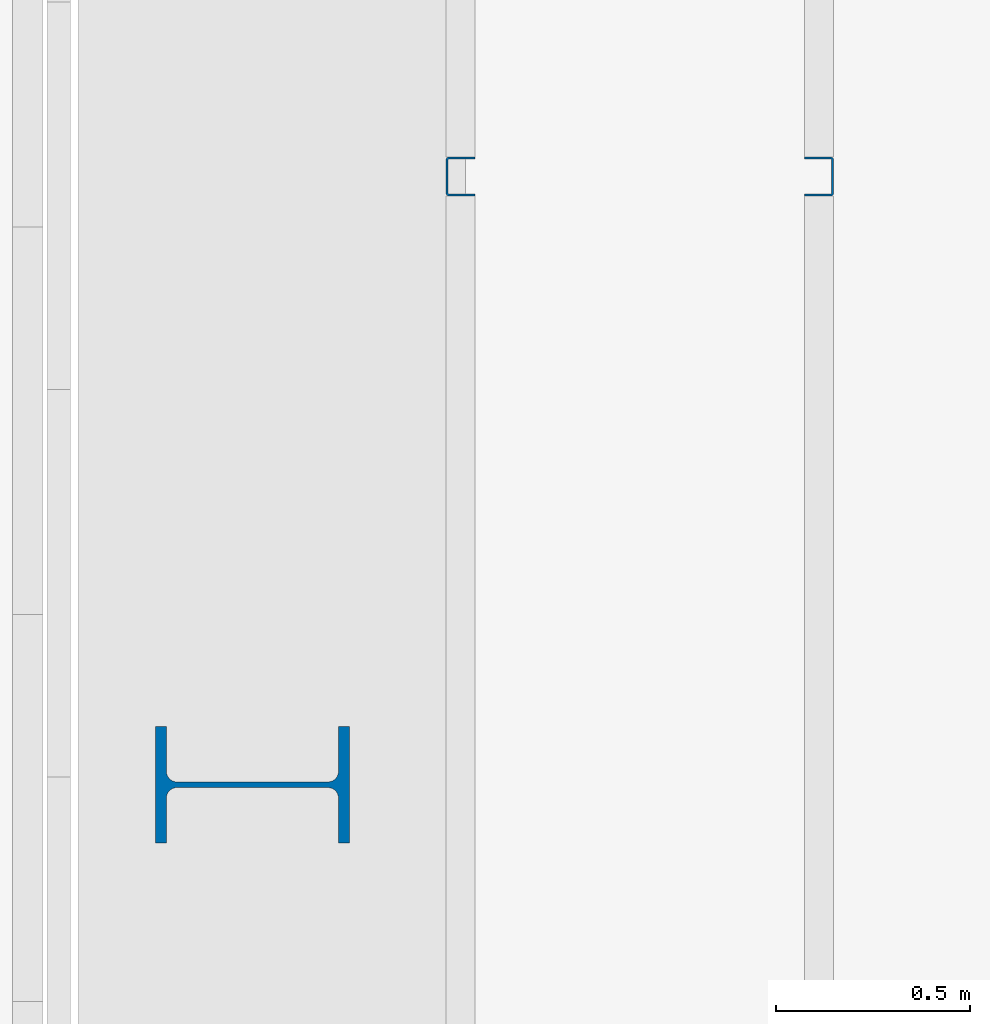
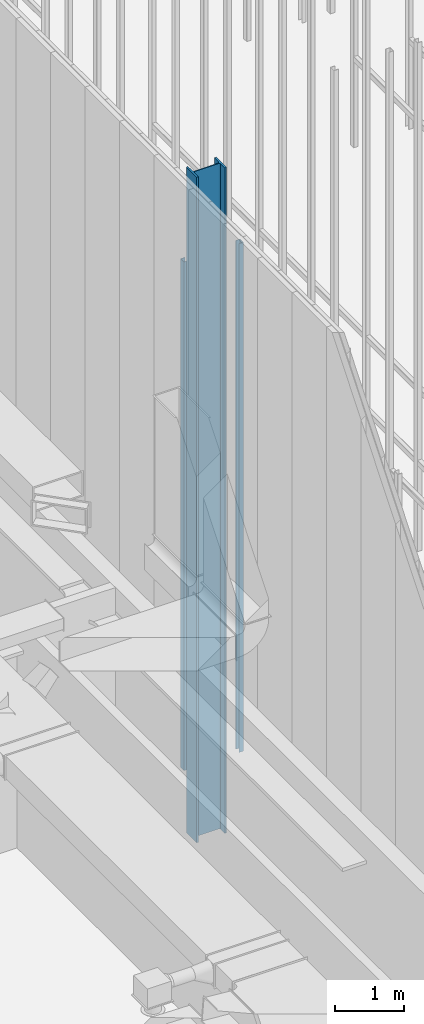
# One storey, part 16 of 302: 3 columns.
"""IFC2X3 building model written with IfcOpenShell, lengths in metres."""

from ifc_helpers import new_model, entity, si_unit, converted_unit, derived_unit, direction, frame, frame_2d, origin, place, context, subcontext, project, spatial, polyline, circle_curve, parameter, trimmed, segment, composite_curve, outline, extrude, source, transform, mapped, material, type_object, type_shapes, element, save


model = new_model("IFC2X3")

# Units and contexts
model_context = context("Model", 3, precision=1e-05, world=origin(), true_north=direction((6.12303176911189e-17, 1.0)))
body_context = subcontext(model_context, "Body", "Model", "MODEL_VIEW")
ifc_project = project(units=[si_unit("LENGTHUNIT", "METRE"), si_unit("AREAUNIT", "SQUARE_METRE"), si_unit("VOLUMEUNIT", "CUBIC_METRE"), converted_unit("PLANEANGLEUNIT", "DEGREE", entity("IfcRatioMeasure", 0.0174532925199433), si_unit("PLANEANGLEUNIT", "RADIAN"), dimensions=[0, 0, 0, 0, 0, 0, 0]), si_unit("MASSUNIT", "GRAM", prefix="KILO"), derived_unit("MASSDENSITYUNIT", [(si_unit("MASSUNIT", "GRAM", prefix="KILO"), 1), (si_unit("LENGTHUNIT", "METRE"), -3)]), derived_unit("MOMENTOFINERTIAUNIT", [(si_unit("LENGTHUNIT", "METRE"), 4)]), si_unit("TIMEUNIT", "SECOND"), si_unit("FREQUENCYUNIT", "HERTZ"), si_unit("THERMODYNAMICTEMPERATUREUNIT", "DEGREE_CELSIUS"), derived_unit("THERMALTRANSMITTANCEUNIT", [(si_unit("MASSUNIT", "GRAM", prefix="KILO"), 1), (si_unit("THERMODYNAMICTEMPERATUREUNIT", "KELVIN"), -1), (si_unit("TIMEUNIT", "SECOND"), -3)]), derived_unit("VOLUMETRICFLOWRATEUNIT", [(si_unit("LENGTHUNIT", "METRE"), 3), (si_unit("TIMEUNIT", "SECOND"), -1)]), si_unit("ELECTRICCURRENTUNIT", "AMPERE"), si_unit("ELECTRICVOLTAGEUNIT", "VOLT"), si_unit("POWERUNIT", "WATT"), si_unit("FORCEUNIT", "NEWTON", prefix="KILO"), si_unit("ILLUMINANCEUNIT", "LUX"), si_unit("LUMINOUSFLUXUNIT", "LUMEN"), si_unit("LUMINOUSINTENSITYUNIT", "CANDELA"), derived_unit("USERDEFINED", [(si_unit("MASSUNIT", "GRAM", prefix="KILO"), -1), (si_unit("LENGTHUNIT", "METRE"), -2), (si_unit("TIMEUNIT", "SECOND"), 3), (si_unit("LUMINOUSFLUXUNIT", "LUMEN"), 1)]), derived_unit("LINEARVELOCITYUNIT", [(si_unit("LENGTHUNIT", "METRE"), 1), (si_unit("TIMEUNIT", "SECOND"), -1)]), si_unit("PRESSUREUNIT", "PASCAL"), derived_unit("USERDEFINED", [(si_unit("LENGTHUNIT", "METRE"), -2), (si_unit("MASSUNIT", "GRAM", prefix="KILO"), 1), (si_unit("TIMEUNIT", "SECOND"), -2)]), derived_unit("LINEARFORCEUNIT", [(si_unit("MASSUNIT", "GRAM", prefix="KILO"), 1), (si_unit("LENGTHUNIT", "METRE"), 1), (si_unit("TIMEUNIT", "SECOND"), -2), (si_unit("LENGTHUNIT", "METRE"), -1)]), derived_unit("PLANARFORCEUNIT", [(si_unit("MASSUNIT", "GRAM", prefix="KILO"), 1), (si_unit("LENGTHUNIT", "METRE"), 1), (si_unit("TIMEUNIT", "SECOND"), -2), (si_unit("LENGTHUNIT", "METRE"), -2)])], contexts=[model_context])

# Site, building, storey
site_placement = place(None, origin())
site = spatial("IfcSite", under=ifc_project, at=site_placement, Name="Default", CompositionType="ELEMENT")
building_placement = place(site_placement, origin())
building = spatial("IfcBuilding", under=site, at=building_placement, CompositionType="ELEMENT")
storey_placement = place(building_placement, frame((0.0, 0.0, -1.3)))
storey = spatial("IfcBuildingStorey", under=building, at=storey_placement, Name="00_EG", CompositionType="ELEMENT", Elevation=-1.3)

# Columns
ifc_material = material(Name="Metall - Baustahl S235")
column_type_1 = type_object("IfcColumnType", Name="HEB Stütze:HEB 500", PredefinedType="COLUMN", material=ifc_material)
shared_shape_1 = source(origin(), body_context, "Body", "SweptSolid", [
    extrude(outline(composite_curve([segment(polyline([(0.222, -0.15), (0.25, -0.15)]), True, "CONTINUOUS"), segment(polyline([(0.25, -0.15), (0.25, 0.15)]), True, "CONTINUOUS"), segment(polyline([(0.25, 0.15), (0.222, 0.15)]), True, "CONTINUOUS"), segment(polyline([(0.222, 0.15), (0.222, 0.0342500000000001)]), True, "CONTINUOUS"), segment(trimmed(circle_curve(frame_2d((0.195, 0.0342500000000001), x_axis=(1.0, 0.0)), 0.0270000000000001), [parameter(270.0)], [parameter(0.0)], True, "PARAMETER"), False, "CONTINUOUS"), segment(polyline([(0.195, 0.00724999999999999), (-0.195, 0.00724999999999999)]), True, "CONTINUOUS"), segment(trimmed(circle_curve(frame_2d((-0.195, 0.03425), x_axis=(0.0, -1.0)), 0.027), [parameter(270.0)], [parameter(0.0)], True, "PARAMETER"), False, "CONTINUOUS"), segment(polyline([(-0.222, 0.0342500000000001), (-0.222, 0.15)]), True, "CONTINUOUS"), segment(polyline([(-0.222, 0.15), (-0.25, 0.15)]), True, "CONTINUOUS"), segment(polyline([(-0.25, 0.15), (-0.25, -0.15)]), True, "CONTINUOUS"), segment(polyline([(-0.25, -0.15), (-0.222, -0.15)]), True, "CONTINUOUS"), segment(polyline([(-0.222, -0.15), (-0.222, -0.03425)]), True, "CONTINUOUS"), segment(trimmed(circle_curve(frame_2d((-0.195, -0.03425), x_axis=(-1.0, 0.0)), 0.027), [parameter(269.999999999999)], [parameter(0.0)], True, "PARAMETER"), False, "CONTINUOUS"), segment(polyline([(-0.195, -0.00724999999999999), (0.195, -0.00724999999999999)]), True, "CONTINUOUS"), segment(trimmed(circle_curve(frame_2d((0.195, -0.03425), x_axis=(0.0, 1.0)), 0.027), [parameter(270.0)], [parameter(0.0)], True, "PARAMETER"), False, "CONTINUOUS"), segment(polyline([(0.222, -0.0342499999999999), (0.222, -0.15)]), True, "CONTINUOUS")], self_intersect=False)), frame((0.0, 0.0, -0.0300000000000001), z_axis=(0.0, 0.0, 1.0), x_axis=(0.0, -1.0, 0.0)), (0.0, 0.0, 1.0), 11.775),
])
type_shapes(column_type_1, [shared_shape_1])
column_1_placement = place(storey_placement, frame((-206.990111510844, 31.728088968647, 1.3), z_axis=(0.0, 0.0, 1.0), x_axis=(0.0, -1.0, 0.0)))
element("IfcColumn", 1, at=column_1_placement, inside=storey, type_object=column_type_1, material=ifc_material, Name="HEB Stütze:HEB 500", ObjectType="HEB Stütze:HEB 500", context=body_context, shape_type="MappedRepresentation", body=[
    mapped(shared_shape_1, transform((0.0, 0.0, 0.0), scale=1.0)),
])
column_type_2 = type_object("IfcColumnType", Name="Leichter Stahl Schlossschrauben Stütze:C 100", PredefinedType="COLUMN", material=ifc_material)
shared_shape_2 = source(origin(), body_context, "Body", "SweptSolid", [
    extrude(outline(composite_curve([segment(polyline([(-0.0469749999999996, -0.0499999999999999), (0.0214500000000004, -0.0499999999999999)]), True, "CONTINUOUS"), segment(trimmed(circle_curve(frame_2d((0.0214500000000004, -0.0434249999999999), x_axis=(0.0, -1.0)), 0.00657500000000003), [parameter(0.0)], [parameter(89.9999999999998)], True, "PARAMETER"), True, "CONTINUOUS"), segment(polyline([(0.0280250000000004, -0.0434249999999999), (0.0280250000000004, 0.0434250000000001)]), True, "CONTINUOUS"), segment(trimmed(circle_curve(frame_2d((0.0214500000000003, 0.0434250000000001), x_axis=(1.0, 0.0)), 0.0065750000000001), [parameter(0.0)], [parameter(89.9999999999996)], True, "PARAMETER"), True, "CONTINUOUS"), segment(polyline([(0.0214500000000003, 0.0500000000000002), (-0.0469750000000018, 0.0500000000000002)]), True, "CONTINUOUS"), segment(polyline([(-0.0469750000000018, 0.0500000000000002), (-0.0469750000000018, 0.0450000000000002)]), True, "CONTINUOUS"), segment(polyline([(-0.0469750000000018, 0.0450000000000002), (0.0214500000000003, 0.0450000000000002)]), True, "CONTINUOUS"), segment(trimmed(circle_curve(frame_2d((0.0214500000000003, 0.0434249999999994), x_axis=(0.0, 1.0)), 0.00157500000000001), [parameter(269.999999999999)], [parameter(0.0)], True, "PARAMETER"), False, "CONTINUOUS"), segment(polyline([(0.0230250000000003, 0.0434249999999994), (0.0230250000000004, -0.0434249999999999)]), True, "CONTINUOUS"), segment(trimmed(circle_curve(frame_2d((0.0214500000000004, -0.0434249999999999), x_axis=(1.0, 0.0)), 0.00157500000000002), [parameter(270.0)], [parameter(0.0)], True, "PARAMETER"), False, "CONTINUOUS"), segment(polyline([(0.0214500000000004, -0.0449999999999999), (-0.0469749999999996, -0.0449999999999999)]), True, "CONTINUOUS"), segment(polyline([(-0.0469749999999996, -0.0449999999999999), (-0.0469749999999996, -0.0499999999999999)]), True, "CONTINUOUS")], self_intersect=False)), frame((0.0499999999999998, 0.0280250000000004, -0.0300000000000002), z_axis=(0.0, 0.0, 1.0), x_axis=(0.0, -1.0, 0.0)), (0.0, 0.0, 1.0), 9.0),
])
type_shapes(column_type_2, [shared_shape_2])
column_2_placement = place(storey_placement, frame((-206.490111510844, 33.348088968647, 1.3), z_axis=(0.0, 0.0, 1.0), x_axis=(0.0, -1.0, 0.0)))
element("IfcColumn", 2, at=column_2_placement, inside=storey, type_object=column_type_2, material=ifc_material, Name="Leichter Stahl Schlossschrauben Stütze:C 100", ObjectType="Leichter Stahl Schlossschrauben Stütze:C 100", context=body_context, shape_type="MappedRepresentation", body=[
    mapped(shared_shape_2, transform((0.0, 0.0, 0.0), scale=1.0)),
])
column_type_3 = type_object("IfcColumnType", Name="Leichter Stahl Schlossschrauben Stütze:C 100", PredefinedType="COLUMN", material=ifc_material)
shared_shape_3 = source(origin(), body_context, "Body", "SweptSolid", [
    extrude(outline(composite_curve([segment(polyline([(-0.0214500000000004, -0.0499999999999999), (0.0469749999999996, -0.0499999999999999)]), True, "CONTINUOUS"), segment(polyline([(0.0469749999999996, -0.0499999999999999), (0.0469749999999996, -0.0449999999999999)]), True, "CONTINUOUS"), segment(polyline([(0.0469749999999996, -0.0449999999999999), (-0.0214500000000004, -0.045)]), True, "CONTINUOUS"), segment(trimmed(circle_curve(frame_2d((-0.0214500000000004, -0.043425), x_axis=(0.0, -1.0)), 0.00157500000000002), [parameter(270.0)], [parameter(0.0)], True, "PARAMETER"), False, "CONTINUOUS"), segment(polyline([(-0.0230250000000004, -0.0434249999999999), (-0.0230250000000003, 0.0434249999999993)]), True, "CONTINUOUS"), segment(trimmed(circle_curve(frame_2d((-0.0214500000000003, 0.0434249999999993), x_axis=(-1.0, 0.0)), 0.00157500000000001), [parameter(269.999999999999)], [parameter(0.0)], True, "PARAMETER"), False, "CONTINUOUS"), segment(polyline([(-0.0214500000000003, 0.0450000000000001), (0.0469750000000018, 0.0450000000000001)]), True, "CONTINUOUS"), segment(polyline([(0.0469750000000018, 0.0450000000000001), (0.0469750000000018, 0.0500000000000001)]), True, "CONTINUOUS"), segment(polyline([(0.0469750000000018, 0.0500000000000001), (-0.0214500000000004, 0.0500000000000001)]), True, "CONTINUOUS"), segment(trimmed(circle_curve(frame_2d((-0.0214500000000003, 0.043425), x_axis=(0.0, 1.0)), 0.0065750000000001), [parameter(0.0)], [parameter(89.9999999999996)], True, "PARAMETER"), True, "CONTINUOUS"), segment(polyline([(-0.0280250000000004, 0.043425), (-0.0280250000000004, -0.043425)]), True, "CONTINUOUS"), segment(trimmed(circle_curve(frame_2d((-0.0214500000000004, -0.0434249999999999), x_axis=(-1.0, 0.0)), 0.00657500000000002), [parameter(0.0)], [parameter(89.9999999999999)], True, "PARAMETER"), True, "CONTINUOUS")], self_intersect=False)), frame((0.0499999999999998, -0.0280250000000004, -0.0300000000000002), z_axis=(0.0, 0.0, 1.0), x_axis=(0.0, -1.0, 0.0)), (0.0, 0.0, 1.0), 9.0),
])
type_shapes(column_type_3, [shared_shape_3])
column_3_placement = place(storey_placement, frame((-205.490111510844, 33.348088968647, 1.3), z_axis=(0.0, 0.0, 1.0), x_axis=(0.0, -1.0, 0.0)))
element("IfcColumn", 3, at=column_3_placement, inside=storey, type_object=column_type_3, material=ifc_material, Name="Leichter Stahl Schlossschrauben Stütze:C 100", ObjectType="Leichter Stahl Schlossschrauben Stütze:C 100", context=body_context, shape_type="MappedRepresentation", body=[
    mapped(shared_shape_3, transform((0.0, 0.0, 0.0), scale=1.0)),
])

save(model, "model.ifc")
